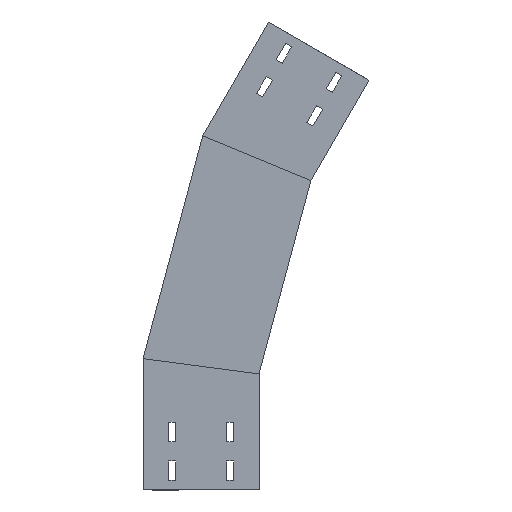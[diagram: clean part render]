
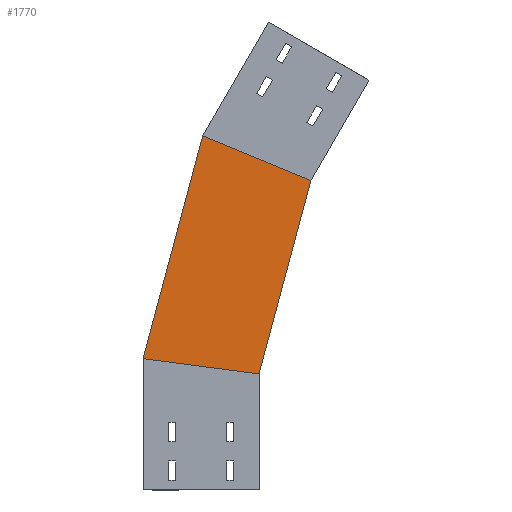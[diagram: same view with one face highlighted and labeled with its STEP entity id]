
A CAD part, left-side view. The second image highlights one B-rep face of the part: STEP entity #1770.
In plain terms, the highlighted planar face has unit normal (-1, 0, 0) as drawn and (1, 0, 0) by its records, which use the part's own axes.
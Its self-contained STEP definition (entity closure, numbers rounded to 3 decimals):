
#78 = LINE ( 'NONE', #398, #1095 ) ;
#258 = VERTEX_POINT ( 'NONE', #1476 ) ;
#333 = PLANE ( 'NONE',  #2031 ) ;
#349 = VECTOR ( 'NONE', #480, 1000. ) ;
#398 = CARTESIAN_POINT ( 'NONE',  ( 0., 5.648, 128.921 ) ) ;
#480 = DIRECTION ( 'NONE',  ( 0., -0.924, -0.383 ) ) ;
#614 = EDGE_LOOP ( 'NONE', ( #1601, #1194, #1173, #2027 ) ) ;
#669 = CARTESIAN_POINT ( 'NONE',  ( 0., -100.899, 386.148 ) ) ;
#847 = CARTESIAN_POINT ( 'NONE',  ( 0., 0., 150. ) ) ;
#861 = LINE ( 'NONE', #1197, #917 ) ;
#862 = VECTOR ( 'NONE', #1191, 1000. ) ;
#882 = VERTEX_POINT ( 'NONE', #1553 ) ;
#917 = VECTOR ( 'NONE', #1175, 1000. ) ;
#941 = LINE ( 'NONE', #669, #349 ) ;
#989 = CARTESIAN_POINT ( 'NONE',  ( 0., 5.648, 128.921 ) ) ;
#1013 = EDGE_CURVE ( 'NONE', #258, #882, #941, .T. ) ;
#1095 = VECTOR ( 'NONE', #1356, 1000. ) ;
#1135 = EDGE_CURVE ( 'NONE', #1809, #882, #78, .T. ) ;
#1147 = CARTESIAN_POINT ( 'NONE',  ( 0., 150., 169.748 ) ) ;
#1155 = DIRECTION ( 'NONE',  ( 0., 0., -1. ) ) ;
#1173 = ORIENTED_EDGE ( 'NONE', *, *, #1135, .F. ) ;
#1175 = DIRECTION ( 'NONE',  ( 0., -0.991, -0.131 ) ) ;
#1191 = DIRECTION ( 'NONE',  ( 0., -0.259, 0.966 ) ) ;
#1194 = ORIENTED_EDGE ( 'NONE', *, *, #1013, .T. ) ;
#1197 = CARTESIAN_POINT ( 'NONE',  ( 0., -19.411, 147.444 ) ) ;
#1298 = DIRECTION ( 'NONE',  ( 1., 0., 0. ) ) ;
#1303 = LINE ( 'NONE', #1465, #862 ) ;
#1356 = DIRECTION ( 'NONE',  ( 0., -0.259, 0.966 ) ) ;
#1410 = EDGE_CURVE ( 'NONE', #1449, #258, #1303, .T. ) ;
#1449 = VERTEX_POINT ( 'NONE', #1147 ) ;
#1465 = CARTESIAN_POINT ( 'NONE',  ( 0., 150.537, 167.744 ) ) ;
#1476 = CARTESIAN_POINT ( 'NONE',  ( 0., 72.744, 458.073 ) ) ;
#1553 = CARTESIAN_POINT ( 'NONE',  ( 0., -67.034, 400.175 ) ) ;
#1601 = ORIENTED_EDGE ( 'NONE', *, *, #1410, .T. ) ;
#1733 = FACE_OUTER_BOUND ( 'NONE', #614, .T. ) ;
#1770 = ADVANCED_FACE ( 'NONE', ( #1733 ), #333, .T. ) ;
#1809 = VERTEX_POINT ( 'NONE', #847 ) ;
#1961 = EDGE_CURVE ( 'NONE', #1449, #1809, #861, .T. ) ;
#2027 = ORIENTED_EDGE ( 'NONE', *, *, #1961, .F. ) ;
#2031 = AXIS2_PLACEMENT_3D ( 'NONE', #989, #1298, #1155 ) ;
